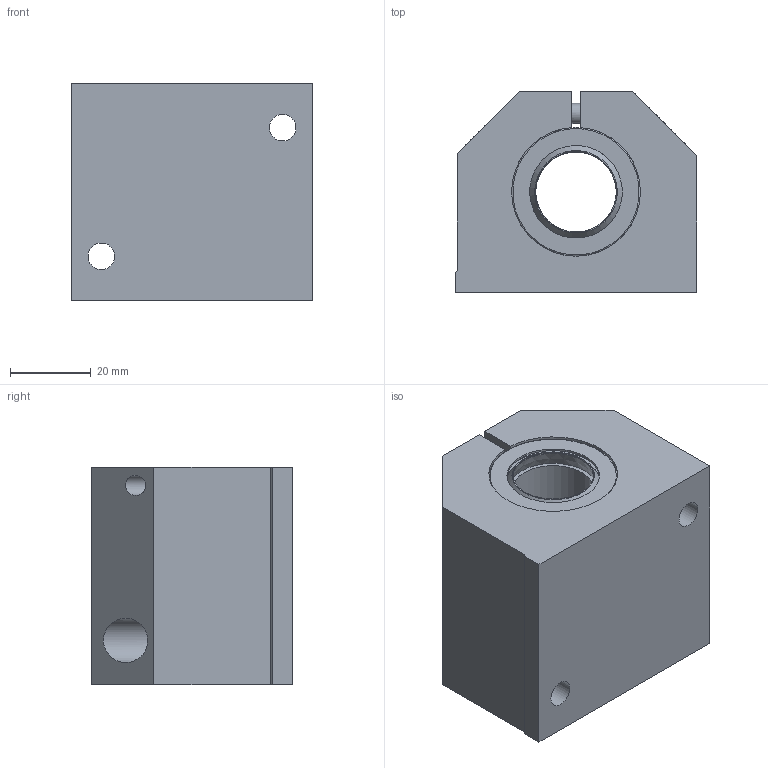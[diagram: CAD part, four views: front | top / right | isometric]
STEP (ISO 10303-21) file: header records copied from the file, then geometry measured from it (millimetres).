
FILE_DESCRIPTION(('STEP AP203'),'1');
FILE_NAME('//192.168.1.1/share/s-4 技術開発/s-4-4_CAD/s-4-4-3_見直し済み/008 修正済み/SLS(済)/SLS_TOP/SLS-20.step','2022-03-09T07:11:18',(' '),(' '),'Spatial InterOp 3D',' ',' ');
FILE_SCHEMA(('CONFIG_CONTROL_DESIGN'));
Length unit declared in the file: millimetre
Products named in the file (1): 1
Bounding box: 60 x 50 x 54 mm (x, y, z)
Volume: 121508.6 mm3; surface area: 25903.8 mm2
Topology: 1 solids, 1 shells, 91 faces, 208 edges, 131 vertices
Faces by surface type: plane 41, cylinder 35, torus 8, cone 7
Full cylindrical faces by diameter (mm): 5 x4, 5.5 x1, 6.6 x4, 7 x2, 8.5 x1, 10 x1, 11 x2, 20 x3, 23 x2, 27.5 x2, 30.5 x2
Entity records: 2328 total; most frequent: DIRECTION 414, CARTESIAN_POINT 394, ORIENTED_EDGE 304, AXIS2_PLACEMENT_3D 171, EDGE_LOOP 158, EDGE_CURVE 152, FACE_OUTER_BOUND 123, VERTEX_POINT 117
